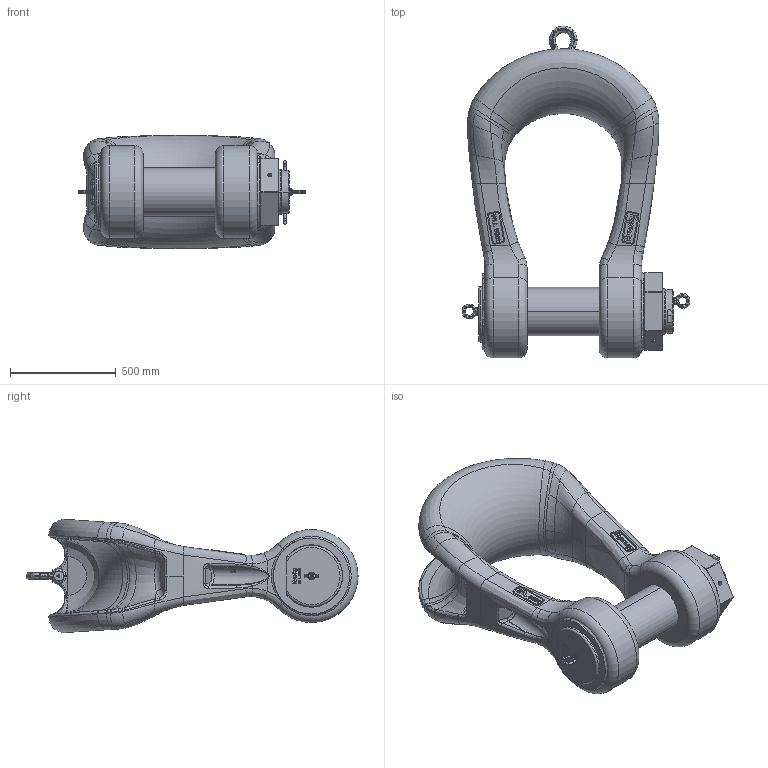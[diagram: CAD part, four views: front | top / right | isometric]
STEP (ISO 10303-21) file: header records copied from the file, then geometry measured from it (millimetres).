
FILE_DESCRIPTION((''),'2;1');
FILE_NAME('1021363_ASM','2024-09-04T11:42:15',('justin.lewis'),('The Crosby Group LLC'),'CREO PARAMETRIC BY PTC INC, 2021304','CREO PARAMETRIC BY PTC INC, 2021304','');
FILE_SCHEMA(('CONFIG_CONTROL_DESIGN','GEOMETRIC_VALIDATION_PROPERTIES_MIM'));
Length unit declared in the file: millimetre
Products named in the file (11): 0829-000800-D000-11; 0829-010800-D000-11; 3685603; 1045995; 2038456; 1800015; 88346; 46872; 1019588_ASM; 3707984; 1021363_ASM
Assembly tree (11 placements, depth 3):
  1021363_ASM
    0829-000800-D000-11
    0829-010800-D000-11
    3685603
    1045995  x2
    1019588_ASM
      2038456
      1800015
      88346
      46872
    3707984
Bounding box: 1077.97 x 1569.7 x 534.59 mm (x, y, z)
Volume: 195437216.2 mm3; surface area: 5081115 mm2
Topology: 10 solids, 19 shells, 2882 faces, 10726 edges, 8629 vertices
Faces by surface type: extrusion 1049, plane 982, bspline 445, torus 178, cylinder 136, cone 92
Entity records: 228091 total; most frequent: CARTESIAN_POINT 121942, ORIENTED_EDGE 12684, PRESENTATION_STYLE_ASSIGNMENT 12017, STYLED_ITEM 12017, CURVE_STYLE 9638, DIRECTION 8123, EDGE_CURVE 6362, B_SPLINE_CURVE_WITH_KNOTS 5393
